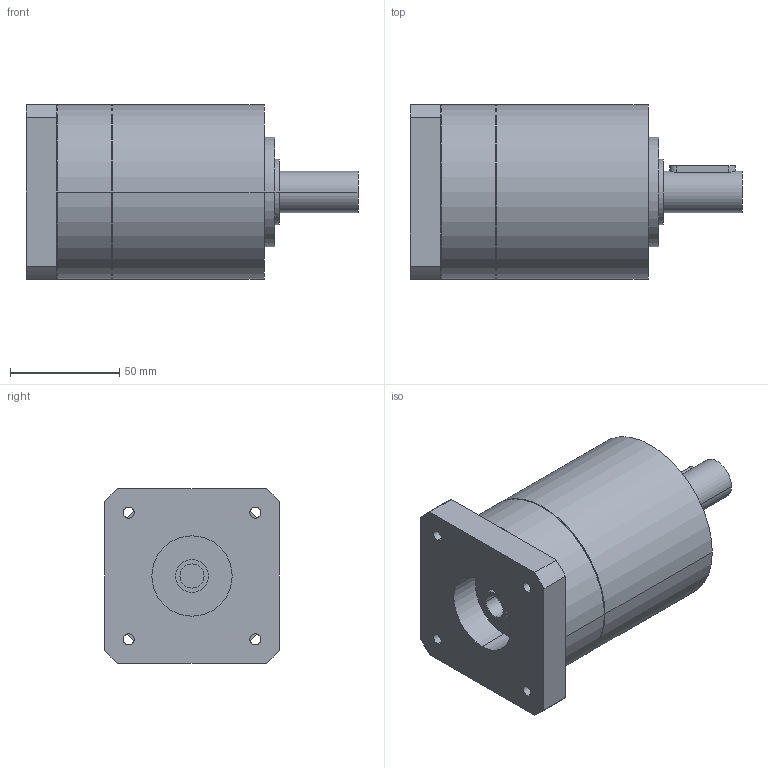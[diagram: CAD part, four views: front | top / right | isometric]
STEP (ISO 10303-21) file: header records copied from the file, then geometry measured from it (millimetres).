
FILE_DESCRIPTION(('CoCreate Modeling STEP Export'),'2;1');
FILE_NAME('GPR100_ig-3-4-5-6_19_B14_11_P27.stp','2014-08-26T10:01:55',(''),(''),'CoCreate Modeling STEP processor for AP214 (Solid Model)','CoCreate Modeling 16.00C 25-Feb-2009 (C) Parametric Technology GmbH','');
FILE_SCHEMA(('AUTOMOTIVE_DESIGN { 1 0 10303 214 1 1 1 1 }'));
Length unit declared in the file: millimetre
Products named in the file (2): GPR100_ig-3-4-5-6_19_B14_11_P27
Assembly tree (1 placements, depth 2):
  GPR100_ig-3-4-5-6_19_B14_11_P27
    GPR100_ig-3-4-5-6_19_B14_11_P27
Bounding box: 152 x 80 x 80 mm (x, y, z)
Volume: 568852.1 mm3; surface area: 49305.4 mm2
Topology: 1 solids, 1 shells, 71 faces, 195 edges, 133 vertices
Faces by surface type: cylinder 40, plane 25, cone 6
Entity records: 1957 total; most frequent: ORIENTED_EDGE 386, CARTESIAN_POINT 361, DIRECTION 264, EDGE_CURVE 193, VERTEX_POINT 133, AXIS2_PLACEMENT_3D 100, EDGE_LOOP 88, FACE_OUTER_BOUND 71
